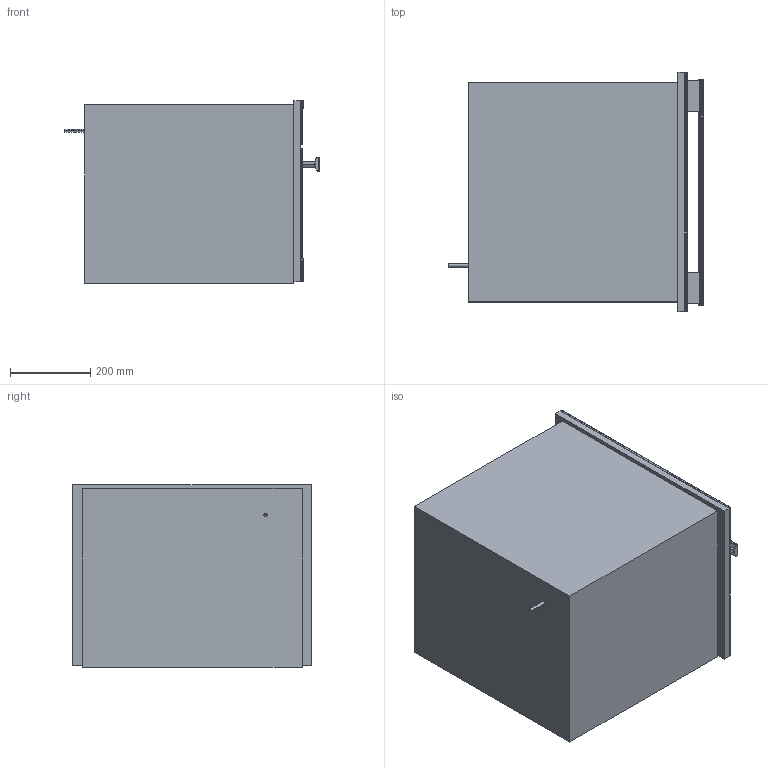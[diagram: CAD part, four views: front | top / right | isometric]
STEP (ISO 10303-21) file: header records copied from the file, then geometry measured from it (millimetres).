
FILE_DESCRIPTION(/* description */ (''),/* implementation_level */ '2;1');
FILE_NAME(/* name */ 'DG6600_CLST_NA',/* time_stamp */ '2013-10-31T17:42:10+01:00',/* author */ (''),/* organization */ (''),/* preprocessor_version */ 'ST-DEVELOPER v10',/* originating_system */ '',/* authorisation */ '');
FILE_SCHEMA (('AUTOMOTIVE_DESIGN_CC2'));
Length unit declared in the file: millimetre
Products named in the file (1): 1
Bounding box: 633.99 x 595.01 x 455.19 mm (x, y, z)
Volume: 97951530.5 mm3; surface area: 3384812.1 mm2
Topology: 46 solids, 47 shells, 266 faces, 493 edges, 316 vertices
Faces by surface type: bspline 266
Entity records: 14327 total; most frequent: CARTESIAN_POINT 10945, ORIENTED_EDGE 966, EDGE_CURVE 489, VERTEX_POINT 316, EDGE_LOOP 270, ADVANCED_FACE 266, FACE_OUTER_BOUND 266, B_SPLINE_CURVE_WITH_KNOTS 166
